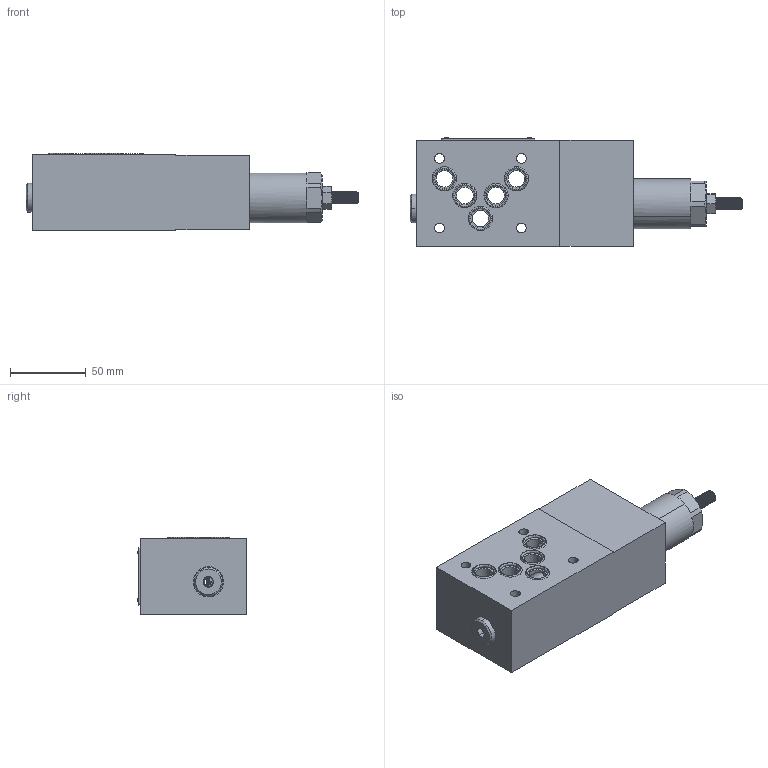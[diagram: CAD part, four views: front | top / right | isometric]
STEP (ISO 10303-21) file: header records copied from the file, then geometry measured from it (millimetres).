
FILE_DESCRIPTION (( 'STEP AP214' ), '1' );
FILE_NAME ('ASSIEME 376-4-P-12-05.STEP', '2019-12-04T09:00:39', ( '' ), ( '' ), 'SwSTEP 2.0', 'SolidWorks 2018', '' );
FILE_SCHEMA (( 'AUTOMOTIVE_DESIGN' ));
Length unit declared in the file: millimetre
Products named in the file (1): ASSIEME 376-4-P-12-05
Bounding box: 219.21 x 71.66 x 50.91 mm (x, y, z)
Surface area: 68338.2 mm2 (no closed solid volume)
Topology: 0 solids, 68 shells, 733 faces, 3618 edges, 2900 vertices
Faces by surface type: plane 397, cone 155, cylinder 107, bspline 64, sphere 8, torus 2
Entity records: 54514 total; most frequent: CARTESIAN_POINT 19713, ORIENTED_EDGE 4874, DIRECTION 4734, EDGE_CURVE 3618, VERTEX_POINT 2900, VECTOR 2370, LINE 2370, AXIS2_PLACEMENT_3D 1182
